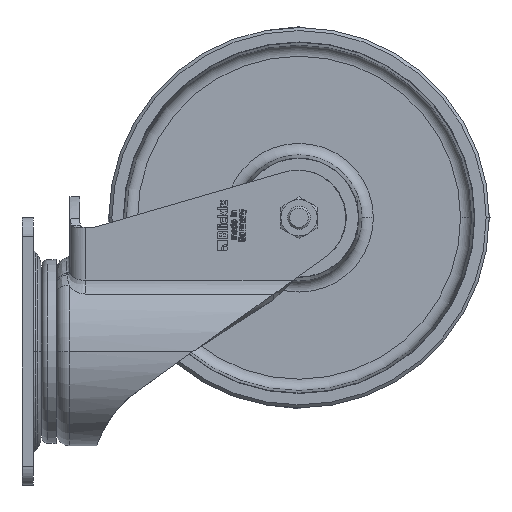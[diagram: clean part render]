
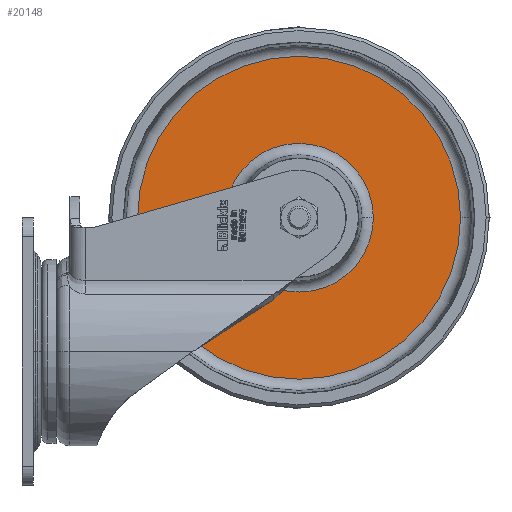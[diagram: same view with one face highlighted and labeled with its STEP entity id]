
A CAD part, left-side view. The second image highlights one B-rep face of the part: STEP entity #20148.
In plain terms, the highlighted planar face has unit normal (-1, 0, 0).
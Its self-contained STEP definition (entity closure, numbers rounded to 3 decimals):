
#113 = VERTEX_POINT ( 'NONE', #24574 ) ;
#368 = AXIS2_PLACEMENT_3D ( 'NONE', #54343, #34101, #29217 ) ;
#1433 = DIRECTION ( 'NONE',  ( 0., 1., 0. ) ) ;
#2079 = ORIENTED_EDGE ( 'NONE', *, *, #18446, .T. ) ;
#3375 = EDGE_CURVE ( 'NONE', #45180, #39850, #4604, .T. ) ;
#4604 = CIRCLE ( 'NONE', #11013, 38.904 ) ;
#5892 = CIRCLE ( 'NONE', #56662, 84.534 ) ;
#6882 = ORIENTED_EDGE ( 'NONE', *, *, #28263, .F. ) ;
#7019 = DIRECTION ( 'NONE',  ( 0., 1., 0. ) ) ;
#11013 = AXIS2_PLACEMENT_3D ( 'NONE', #12133, #16566, #17229 ) ;
#12133 = CARTESIAN_POINT ( 'NONE',  ( -4., 0., 0. ) ) ;
#13321 = EDGE_LOOP ( 'NONE', ( #6882, #19918 ) ) ;
#14573 = EDGE_LOOP ( 'NONE', ( #2079, #46932 ) ) ;
#16566 = DIRECTION ( 'NONE',  ( 1., 0., 0. ) ) ;
#16906 = CARTESIAN_POINT ( 'NONE',  ( -4., -84.533, 0.25 ) ) ;
#17229 = DIRECTION ( 'NONE',  ( 0., 1., 0. ) ) ;
#18232 = VERTEX_POINT ( 'NONE', #16906 ) ;
#18331 = CARTESIAN_POINT ( 'NONE',  ( -4., 0., 0. ) ) ;
#18446 = EDGE_CURVE ( 'NONE', #39850, #45180, #27140, .T. ) ;
#19918 = ORIENTED_EDGE ( 'NONE', *, *, #39855, .F. ) ;
#20148 = ADVANCED_FACE ( 'NONE', ( #27783, #53773 ), #49342, .F. ) ;
#24574 = CARTESIAN_POINT ( 'NONE',  ( -4., 84.533, -0.25 ) ) ;
#27140 = CIRCLE ( 'NONE', #368, 38.904 ) ;
#27783 = FACE_OUTER_BOUND ( 'NONE', #13321, .T. ) ;
#28263 = EDGE_CURVE ( 'NONE', #18232, #113, #5892, .T. ) ;
#29217 = DIRECTION ( 'NONE',  ( 0., 1., 0. ) ) ;
#32212 = CARTESIAN_POINT ( 'NONE',  ( -4., 38.904, -0.115 ) ) ;
#32430 = DIRECTION ( 'NONE',  ( 1., 0., 0. ) ) ;
#34101 = DIRECTION ( 'NONE',  ( 1., 0., 0. ) ) ;
#35802 = CARTESIAN_POINT ( 'NONE',  ( -4., 0., 0. ) ) ;
#38581 = DIRECTION ( 'NONE',  ( 0., 1., 0. ) ) ;
#39850 = VERTEX_POINT ( 'NONE', #32212 ) ;
#39855 = EDGE_CURVE ( 'NONE', #113, #18232, #41921, .T. ) ;
#41921 = CIRCLE ( 'NONE', #48539, 84.534 ) ;
#42721 = CARTESIAN_POINT ( 'NONE',  ( -4., 0., 0. ) ) ;
#45180 = VERTEX_POINT ( 'NONE', #57805 ) ;
#46932 = ORIENTED_EDGE ( 'NONE', *, *, #3375, .T. ) ;
#48539 = AXIS2_PLACEMENT_3D ( 'NONE', #42721, #32430, #7019 ) ;
#49342 = PLANE ( 'NONE',  #59056 ) ;
#53773 = FACE_BOUND ( 'NONE', #14573, .T. ) ;
#54343 = CARTESIAN_POINT ( 'NONE',  ( -4., 0., 0. ) ) ;
#56662 = AXIS2_PLACEMENT_3D ( 'NONE', #35802, #61509, #1433 ) ;
#57805 = CARTESIAN_POINT ( 'NONE',  ( -4., -38.904, 0.115 ) ) ;
#59056 = AXIS2_PLACEMENT_3D ( 'NONE', #18331, #63694, #38581 ) ;
#61509 = DIRECTION ( 'NONE',  ( 1., 0., 0. ) ) ;
#63694 = DIRECTION ( 'NONE',  ( 1., 0., 0. ) ) ;
